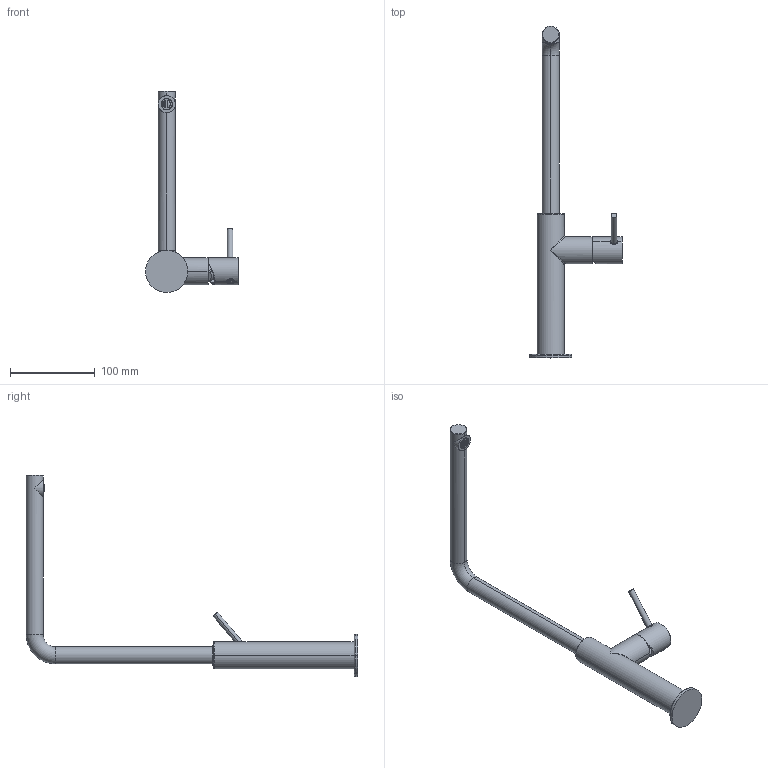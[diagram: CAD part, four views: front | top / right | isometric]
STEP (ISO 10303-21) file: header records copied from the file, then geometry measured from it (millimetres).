
FILE_DESCRIPTION((''),'2;1');
FILE_NAME('12164_SW0001','2024-10-11T11:06:38',('carloff'),(''),'CREO PARAMETRIC BY PTC INC, 2022014','CREO PARAMETRIC BY PTC INC, 2022014','');
FILE_SCHEMA(('CONFIG_CONTROL_DESIGN'));
Length unit declared in the file: millimetre
Products named in the file (1): 12164_SW0001
Bounding box: 109.9 x 392.5 x 238 mm (x, y, z)
Volume: 316731.9 mm3; surface area: 61828.1 mm2
Topology: 1 solids, 4 shells, 433 faces, 1152 edges, 740 vertices
Faces by surface type: plane 195, torus 160, cylinder 40, cone 18, bspline 12, sphere 8
Entity records: 16862 total; most frequent: CARTESIAN_POINT 6423, ORIENTED_EDGE 2292, DIRECTION 2071, EDGE_CURVE 1146, AXIS2_PLACEMENT_3D 845, VERTEX_POINT 740, EDGE_LOOP 456, FACE_OUTER_BOUND 433
